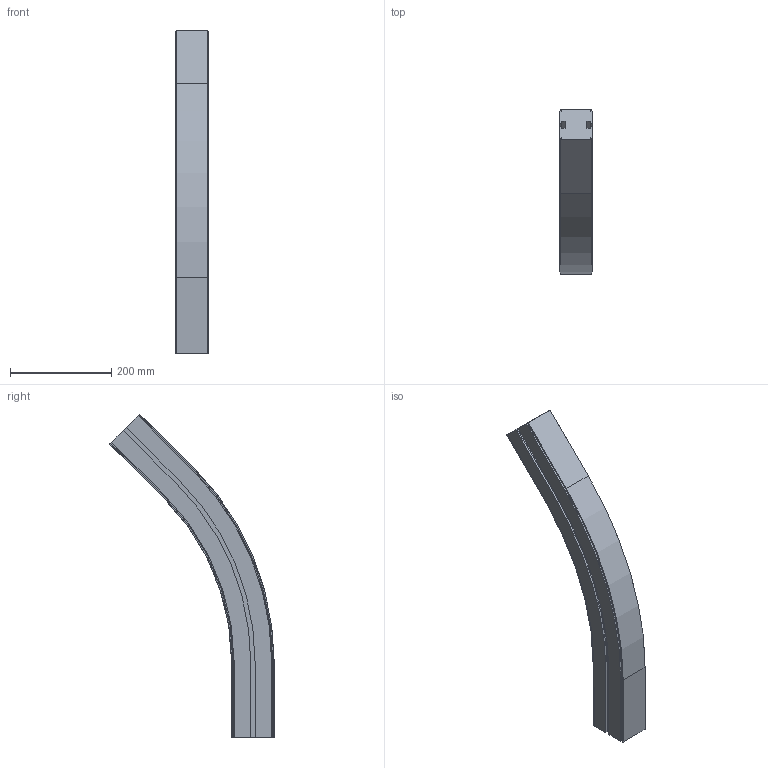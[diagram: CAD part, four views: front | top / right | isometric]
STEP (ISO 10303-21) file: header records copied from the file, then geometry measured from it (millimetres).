
FILE_DESCRIPTION (( 'STEP AP214' ), '1' );
FILE_NAME ('CS SL Verticaalbocht.65 45°.STEP', '2017-02-08T07:37:20', ( '' ), ( '' ), 'SwSTEP 2.0', 'SolidWorks 2016', '' );
FILE_SCHEMA (( 'AUTOMOTIVE_DESIGN' ));
Length unit declared in the file: millimetre
Products named in the file (1): CS SL Verticaalbocht.65 45°
Bounding box: 65 x 324.21 x 639.32 mm (x, y, z)
Volume: 3501337.6 mm3; surface area: 289931.8 mm2
Topology: 1 solids, 1 shells, 98 faces, 272 edges, 176 vertices
Faces by surface type: plane 72, cylinder 18, cone 8
Entity records: 3126 total; most frequent: CARTESIAN_POINT 547, ORIENTED_EDGE 544, DIRECTION 514, EDGE_CURVE 272, LINE 228, VECTOR 228, VERTEX_POINT 176, AXIS2_PLACEMENT_3D 143
